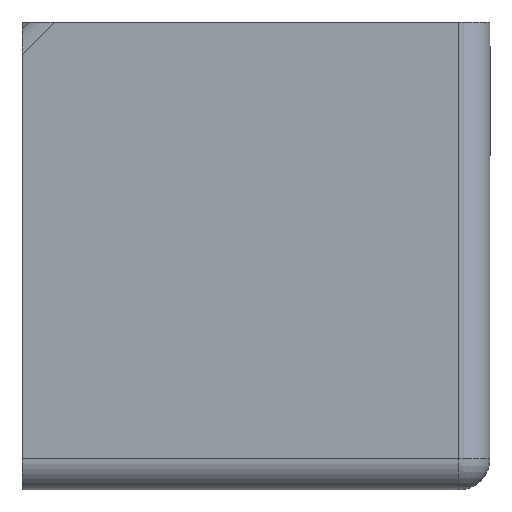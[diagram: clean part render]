
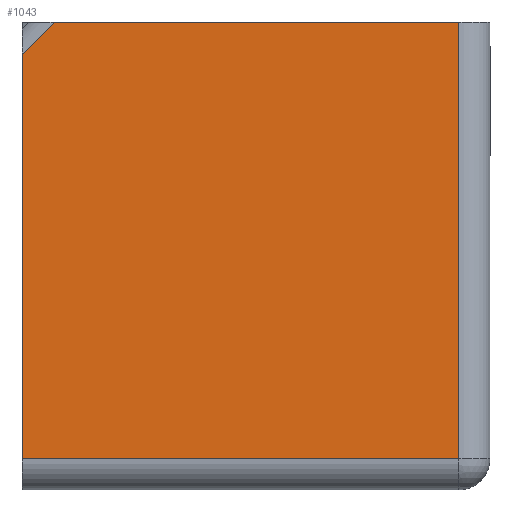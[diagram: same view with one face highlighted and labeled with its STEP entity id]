
A CAD part, left-side view. The second image highlights one B-rep face of the part: STEP entity #1043.
In plain terms, the highlighted planar face has unit normal (-1, 0, 0).
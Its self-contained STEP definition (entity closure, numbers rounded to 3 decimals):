
#15 = VECTOR ( 'NONE', #313, 1000. ) ;
#21 = ORIENTED_EDGE ( 'NONE', *, *, #414, .F. ) ;
#58 = CARTESIAN_POINT ( 'NONE',  ( 0., 45., 45. ) ) ;
#93 = VECTOR ( 'NONE', #1053, 1000. ) ;
#132 = VECTOR ( 'NONE', #2442, 1000. ) ;
#218 = CARTESIAN_POINT ( 'NONE',  ( 0., 3., 45. ) ) ;
#313 = DIRECTION ( 'NONE',  ( 0., 0., -1. ) ) ;
#335 = CARTESIAN_POINT ( 'NONE',  ( 0., 0., 45. ) ) ;
#414 = EDGE_CURVE ( 'NONE', #1117, #1140, #1066, .T. ) ;
#447 = VERTEX_POINT ( 'NONE', #2430 ) ;
#536 = DIRECTION ( 'NONE',  ( 1., 0., 0. ) ) ;
#537 = VECTOR ( 'NONE', #1780, 1000. ) ;
#551 = CARTESIAN_POINT ( 'NONE',  ( 0., 0., 3. ) ) ;
#639 = EDGE_CURVE ( 'NONE', #1140, #447, #1669, .T. ) ;
#697 = CARTESIAN_POINT ( 'NONE',  ( 0., 0., 45. ) ) ;
#723 = PLANE ( 'NONE',  #1176 ) ;
#892 = VERTEX_POINT ( 'NONE', #2330 ) ;
#955 = ORIENTED_EDGE ( 'NONE', *, *, #1513, .F. ) ;
#1005 = LINE ( 'NONE', #551, #2367 ) ;
#1021 = ORIENTED_EDGE ( 'NONE', *, *, #639, .F. ) ;
#1043 = ADVANCED_FACE ( 'NONE', ( #1630 ), #723, .F. ) ;
#1050 = CARTESIAN_POINT ( 'NONE',  ( 0., 45., 3. ) ) ;
#1053 = DIRECTION ( 'NONE',  ( 0., -0.707, 0.707 ) ) ;
#1066 = LINE ( 'NONE', #697, #132 ) ;
#1114 = DIRECTION ( 'NONE',  ( 0., 0., -1. ) ) ;
#1117 = VERTEX_POINT ( 'NONE', #1505 ) ;
#1119 = ORIENTED_EDGE ( 'NONE', *, *, #2313, .F. ) ;
#1140 = VERTEX_POINT ( 'NONE', #218 ) ;
#1173 = LINE ( 'NONE', #58, #537 ) ;
#1176 = AXIS2_PLACEMENT_3D ( 'NONE', #335, #536, #1114 ) ;
#1261 = EDGE_CURVE ( 'NONE', #892, #1117, #1625, .T. ) ;
#1505 = CARTESIAN_POINT ( 'NONE',  ( 0., 41.889, 45. ) ) ;
#1509 = DIRECTION ( 'NONE',  ( 0., 1., 0. ) ) ;
#1513 = EDGE_CURVE ( 'NONE', #447, #1764, #1005, .T. ) ;
#1625 = LINE ( 'NONE', #2001, #93 ) ;
#1630 = FACE_OUTER_BOUND ( 'NONE', #2173, .T. ) ;
#1669 = LINE ( 'NONE', #1672, #15 ) ;
#1672 = CARTESIAN_POINT ( 'NONE',  ( 0., 3., 45. ) ) ;
#1764 = VERTEX_POINT ( 'NONE', #1050 ) ;
#1780 = DIRECTION ( 'NONE',  ( 0., 0., 1. ) ) ;
#2001 = CARTESIAN_POINT ( 'NONE',  ( 0., 45., 41.889 ) ) ;
#2144 = ORIENTED_EDGE ( 'NONE', *, *, #1261, .F. ) ;
#2173 = EDGE_LOOP ( 'NONE', ( #955, #1021, #21, #2144, #1119 ) ) ;
#2313 = EDGE_CURVE ( 'NONE', #1764, #892, #1173, .T. ) ;
#2330 = CARTESIAN_POINT ( 'NONE',  ( 0., 45., 41.889 ) ) ;
#2367 = VECTOR ( 'NONE', #1509, 1000. ) ;
#2430 = CARTESIAN_POINT ( 'NONE',  ( 0., 3., 3. ) ) ;
#2442 = DIRECTION ( 'NONE',  ( 0., -1., 0. ) ) ;
